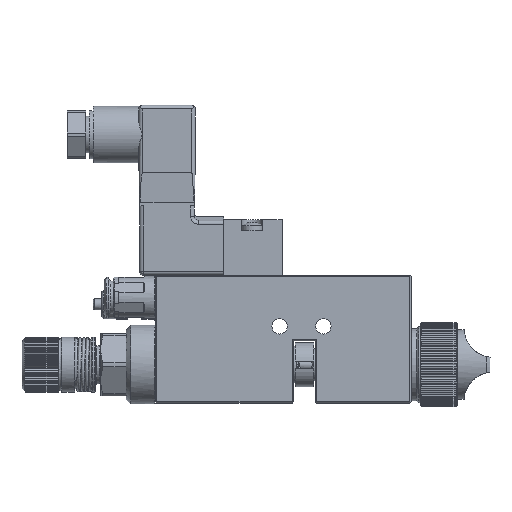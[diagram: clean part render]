
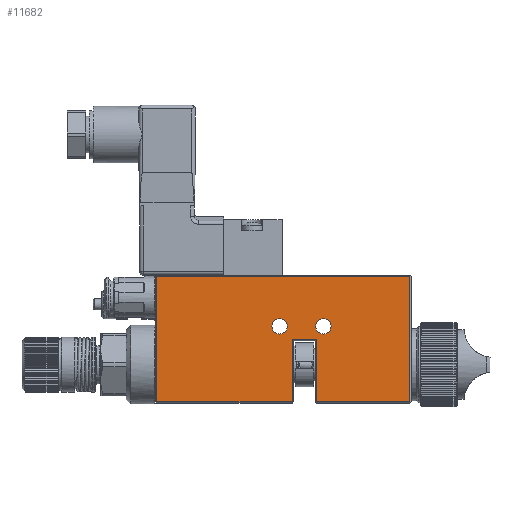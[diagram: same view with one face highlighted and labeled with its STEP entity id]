
A CAD part, left-side view. The second image highlights one B-rep face of the part: STEP entity #11682.
In plain terms, the highlighted planar face has unit normal (-1, 0, 0).
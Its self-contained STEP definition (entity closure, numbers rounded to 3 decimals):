
#1921 = ORIENTED_EDGE ( 'NONE', *, *, #12440, .F. ) ;
#2328 = EDGE_CURVE ( 'NONE', #26762, #47522, #34156, .T. ) ;
#3519 = VECTOR ( 'NONE', #52960, 1000. ) ;
#3672 = CARTESIAN_POINT ( 'NONE',  ( -11., 0.3, -10.5 ) ) ;
#3696 = ORIENTED_EDGE ( 'NONE', *, *, #10176, .F. ) ;
#3782 = EDGE_LOOP ( 'NONE', ( #1921 ) ) ;
#3965 = ORIENTED_EDGE ( 'NONE', *, *, #36686, .F. ) ;
#4714 = DIRECTION ( 'NONE',  ( 0., 1., 0. ) ) ;
#5315 = CARTESIAN_POINT ( 'NONE',  ( -11., 70., -10.2 ) ) ;
#6240 = ORIENTED_EDGE ( 'NONE', *, *, #54169, .F. ) ;
#7246 = PLANE ( 'NONE',  #15400 ) ;
#7486 = ORIENTED_EDGE ( 'NONE', *, *, #34825, .F. ) ;
#8758 = VERTEX_POINT ( 'NONE', #34643 ) ;
#9519 = AXIS2_PLACEMENT_3D ( 'NONE', #24672, #51041, #32907 ) ;
#10176 = EDGE_CURVE ( 'NONE', #41163, #46597, #31396, .T. ) ;
#10187 = VERTEX_POINT ( 'NONE', #27472 ) ;
#10482 = CARTESIAN_POINT ( 'NONE',  ( -11., 32.5, -10.5 ) ) ;
#10820 = VECTOR ( 'NONE', #30311, 1000. ) ;
#11682 = ADVANCED_FACE ( 'NONE', ( #34174, #16034, #25094 ), #7246, .F. ) ;
#12436 = VERTEX_POINT ( 'NONE', #54201 ) ;
#12440 = EDGE_CURVE ( 'NONE', #23515, #23515, #27174, .T. ) ;
#12897 = LINE ( 'NONE', #25960, #23324 ) ;
#13603 = AXIS2_PLACEMENT_3D ( 'NONE', #15340, #24134, #25793 ) ;
#15340 = CARTESIAN_POINT ( 'NONE',  ( -11., 36., 10.5 ) ) ;
#15400 = AXIS2_PLACEMENT_3D ( 'NONE', #50647, #55444, #16597 ) ;
#16034 = FACE_BOUND ( 'NONE', #3782, .T. ) ;
#16455 = ORIENTED_EDGE ( 'NONE', *, *, #18574, .F. ) ;
#16597 = DIRECTION ( 'NONE',  ( 0., 1., 0. ) ) ;
#18052 = CARTESIAN_POINT ( 'NONE',  ( -11., 70., -10.2 ) ) ;
#18414 = EDGE_LOOP ( 'NONE', ( #24339, #6240, #41944, #49167, #7486, #16455, #3965, #3696 ) ) ;
#18574 = EDGE_CURVE ( 'NONE', #8758, #27777, #51955, .T. ) ;
#19521 = CIRCLE ( 'NONE', #9519, 2.1 ) ;
#20351 = CARTESIAN_POINT ( 'NONE',  ( -11., 0.3, -10.2 ) ) ;
#20454 = VECTOR ( 'NONE', #53315, 1000. ) ;
#20509 = VECTOR ( 'NONE', #52790, 1000. ) ;
#23324 = VECTOR ( 'NONE', #52330, 1000. ) ;
#23515 = VERTEX_POINT ( 'NONE', #31453 ) ;
#23637 = EDGE_CURVE ( 'NONE', #10187, #10187, #19521, .T. ) ;
#24134 = DIRECTION ( 'NONE',  ( -1., 0., 0. ) ) ;
#24339 = ORIENTED_EDGE ( 'NONE', *, *, #40852, .F. ) ;
#24672 = CARTESIAN_POINT ( 'NONE',  ( -11., 24., 10.5 ) ) ;
#25094 = FACE_BOUND ( 'NONE', #32975, .T. ) ;
#25793 = DIRECTION ( 'NONE',  ( 0., 1., 0. ) ) ;
#25960 = CARTESIAN_POINT ( 'NONE',  ( -11., 70., 24.2 ) ) ;
#26085 = CARTESIAN_POINT ( 'NONE',  ( -11., 32.5, -10.2 ) ) ;
#26762 = VERTEX_POINT ( 'NONE', #48223 ) ;
#27174 = CIRCLE ( 'NONE', #13603, 2.1 ) ;
#27472 = CARTESIAN_POINT ( 'NONE',  ( -11., 26.1, 10.5 ) ) ;
#27777 = VERTEX_POINT ( 'NONE', #49638 ) ;
#30311 = DIRECTION ( 'NONE',  ( 0., 0., -1. ) ) ;
#30872 = ORIENTED_EDGE ( 'NONE', *, *, #23637, .F. ) ;
#30946 = CARTESIAN_POINT ( 'NONE',  ( -11., 70., 6.8 ) ) ;
#31104 = VECTOR ( 'NONE', #4714, 1000. ) ;
#31396 = LINE ( 'NONE', #5315, #3519 ) ;
#31453 = CARTESIAN_POINT ( 'NONE',  ( -11., 38.1, 10.5 ) ) ;
#32907 = DIRECTION ( 'NONE',  ( 0., 1., 0. ) ) ;
#32975 = EDGE_LOOP ( 'NONE', ( #30872 ) ) ;
#34156 = LINE ( 'NONE', #42686, #53405 ) ;
#34174 = FACE_OUTER_BOUND ( 'NONE', #18414, .T. ) ;
#34643 = CARTESIAN_POINT ( 'NONE',  ( -11., 25.9, 6.8 ) ) ;
#34825 = EDGE_CURVE ( 'NONE', #27777, #45389, #49356, .T. ) ;
#36686 = EDGE_CURVE ( 'NONE', #46597, #8758, #43711, .T. ) ;
#38552 = CARTESIAN_POINT ( 'NONE',  ( -11., 25.9, -10.2 ) ) ;
#40852 = EDGE_CURVE ( 'NONE', #12436, #41163, #55305, .T. ) ;
#41163 = VERTEX_POINT ( 'NONE', #20351 ) ;
#41944 = ORIENTED_EDGE ( 'NONE', *, *, #2328, .F. ) ;
#42297 = VECTOR ( 'NONE', #51912, 1000. ) ;
#42686 = CARTESIAN_POINT ( 'NONE',  ( -11., 69.7, -10.5 ) ) ;
#43600 = LINE ( 'NONE', #18052, #31104 ) ;
#43711 = LINE ( 'NONE', #52469, #42297 ) ;
#45389 = VERTEX_POINT ( 'NONE', #26085 ) ;
#46597 = VERTEX_POINT ( 'NONE', #38552 ) ;
#47522 = VERTEX_POINT ( 'NONE', #55771 ) ;
#48223 = CARTESIAN_POINT ( 'NONE',  ( -11., 69.7, -10.2 ) ) ;
#48402 = EDGE_CURVE ( 'NONE', #45389, #26762, #43600, .T. ) ;
#49167 = ORIENTED_EDGE ( 'NONE', *, *, #48402, .F. ) ;
#49356 = LINE ( 'NONE', #10482, #20454 ) ;
#49595 = DIRECTION ( 'NONE',  ( 0., 0., 1. ) ) ;
#49638 = CARTESIAN_POINT ( 'NONE',  ( -11., 32.5, 6.8 ) ) ;
#50647 = CARTESIAN_POINT ( 'NONE',  ( -11., 70., -10.5 ) ) ;
#51041 = DIRECTION ( 'NONE',  ( -1., 0., 0. ) ) ;
#51912 = DIRECTION ( 'NONE',  ( 0., 0., 1. ) ) ;
#51955 = LINE ( 'NONE', #30946, #20509 ) ;
#52330 = DIRECTION ( 'NONE',  ( 0., -1., 0. ) ) ;
#52469 = CARTESIAN_POINT ( 'NONE',  ( -11., 25.9, -10.5 ) ) ;
#52790 = DIRECTION ( 'NONE',  ( 0., 1., 0. ) ) ;
#52960 = DIRECTION ( 'NONE',  ( 0., 1., 0. ) ) ;
#53315 = DIRECTION ( 'NONE',  ( 0., 0., -1. ) ) ;
#53405 = VECTOR ( 'NONE', #49595, 1000. ) ;
#54169 = EDGE_CURVE ( 'NONE', #47522, #12436, #12897, .T. ) ;
#54201 = CARTESIAN_POINT ( 'NONE',  ( -11., 0.3, 24.2 ) ) ;
#55305 = LINE ( 'NONE', #3672, #10820 ) ;
#55444 = DIRECTION ( 'NONE',  ( 1., 0., 0. ) ) ;
#55771 = CARTESIAN_POINT ( 'NONE',  ( -11., 69.7, 24.2 ) ) ;
